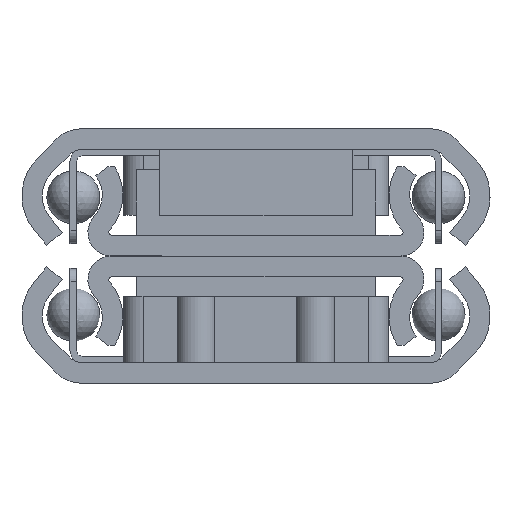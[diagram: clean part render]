
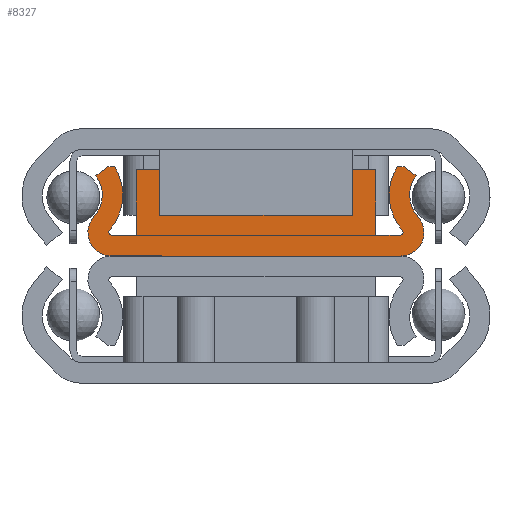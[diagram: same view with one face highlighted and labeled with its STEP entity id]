
A CAD part, left-side view. The second image highlights one B-rep face of the part: STEP entity #8327.
In plain terms, the highlighted planar face has unit normal (-1, 0, 0) as drawn and (0, 0, 1) by its records, which use the part's own axes.
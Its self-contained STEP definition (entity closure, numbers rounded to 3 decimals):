
#366=PLANE('',#9060);
#893=LINE('',#13346,#1657);
#902=LINE('',#13365,#1666);
#904=LINE('',#13369,#1668);
#906=LINE('',#13373,#1670);
#908=LINE('',#13377,#1672);
#910=LINE('',#13381,#1674);
#912=LINE('',#13384,#1676);
#913=LINE('',#13388,#1677);
#928=LINE('',#13444,#1692);
#931=LINE('',#13450,#1695);
#935=LINE('',#13466,#1699);
#938=LINE('',#13470,#1702);
#942=LINE('',#13487,#1706);
#945=LINE('',#13493,#1709);
#1657=VECTOR('',#10839,4.948);
#1666=VECTOR('',#10852,4.948);
#1668=VECTOR('',#10856,4.25);
#1670=VECTOR('',#10860,2.136);
#1672=VECTOR('',#10864,8.);
#1674=VECTOR('',#10868,2.136);
#1676=VECTOR('',#10872,4.25);
#1677=VECTOR('',#10875,21.757);
#1692=VECTOR('',#10932,1.129);
#1695=VECTOR('',#10937,0.515);
#1699=VECTOR('',#10955,1.869);
#1702=VECTOR('',#10958,1.869);
#1706=VECTOR('',#10976,0.515);
#1709=VECTOR('',#10981,1.129);
#2402=FACE_OUTER_BOUND('',#2986,.T.);
#2986=EDGE_LOOP('',(#7050,#7051,#7052,#7053,#7054,#7055,#7056,#7057,#7058,
#7059,#7060,#7061,#7062,#7063,#7064,#7065,#7066,#7067,#7068,#7069,#7070,
#7071));
#3459=CIRCLE('',#9033,1.772);
#3461=CIRCLE('',#9036,2.424);
#3463=CIRCLE('',#9041,3.976);
#3465=CIRCLE('',#9044,0.224);
#3467=CIRCLE('',#9048,0.224);
#3469=CIRCLE('',#9051,3.976);
#3471=CIRCLE('',#9056,2.424);
#3473=CIRCLE('',#9059,1.772);
#4089=VERTEX_POINT('',#13340);
#4091=VERTEX_POINT('',#13344);
#4098=VERTEX_POINT('',#13362);
#4099=VERTEX_POINT('',#13364);
#4100=VERTEX_POINT('',#13368);
#4101=VERTEX_POINT('',#13372);
#4102=VERTEX_POINT('',#13376);
#4103=VERTEX_POINT('',#13380);
#4104=VERTEX_POINT('',#13386);
#4105=VERTEX_POINT('',#13387);
#4121=VERTEX_POINT('',#13431);
#4123=VERTEX_POINT('',#13437);
#4125=VERTEX_POINT('',#13443);
#4127=VERTEX_POINT('',#13449);
#4129=VERTEX_POINT('',#13455);
#4131=VERTEX_POINT('',#13461);
#4132=VERTEX_POINT('',#13465);
#4135=VERTEX_POINT('',#13474);
#4137=VERTEX_POINT('',#13480);
#4139=VERTEX_POINT('',#13486);
#4141=VERTEX_POINT('',#13492);
#4143=VERTEX_POINT('',#13498);
#5105=EDGE_CURVE('',#4089,#4091,#893,.T.);
#5114=EDGE_CURVE('',#4099,#4098,#902,.T.);
#5116=EDGE_CURVE('',#4091,#4100,#904,.T.);
#5118=EDGE_CURVE('',#4100,#4101,#906,.T.);
#5120=EDGE_CURVE('',#4101,#4102,#908,.T.);
#5122=EDGE_CURVE('',#4102,#4103,#910,.T.);
#5124=EDGE_CURVE('',#4103,#4099,#912,.T.);
#5125=EDGE_CURVE('',#4104,#4105,#913,.T.);
#5146=EDGE_CURVE('',#4121,#4104,#3459,.T.);
#5149=EDGE_CURVE('',#4123,#4121,#3461,.T.);
#5152=EDGE_CURVE('',#4125,#4123,#928,.T.);
#5155=EDGE_CURVE('',#4127,#4125,#931,.T.);
#5158=EDGE_CURVE('',#4129,#4127,#3463,.T.);
#5161=EDGE_CURVE('',#4131,#4129,#3465,.T.);
#5163=EDGE_CURVE('',#4132,#4089,#935,.T.);
#5166=EDGE_CURVE('',#4098,#4131,#938,.T.);
#5168=EDGE_CURVE('',#4135,#4132,#3467,.T.);
#5171=EDGE_CURVE('',#4137,#4135,#3469,.T.);
#5174=EDGE_CURVE('',#4139,#4137,#942,.T.);
#5177=EDGE_CURVE('',#4141,#4139,#945,.T.);
#5180=EDGE_CURVE('',#4143,#4141,#3471,.T.);
#5183=EDGE_CURVE('',#4105,#4143,#3473,.T.);
#7050=ORIENTED_EDGE('',*,*,#5125,.T.);
#7051=ORIENTED_EDGE('',*,*,#5183,.T.);
#7052=ORIENTED_EDGE('',*,*,#5180,.T.);
#7053=ORIENTED_EDGE('',*,*,#5177,.T.);
#7054=ORIENTED_EDGE('',*,*,#5174,.T.);
#7055=ORIENTED_EDGE('',*,*,#5171,.T.);
#7056=ORIENTED_EDGE('',*,*,#5168,.T.);
#7057=ORIENTED_EDGE('',*,*,#5163,.T.);
#7058=ORIENTED_EDGE('',*,*,#5105,.T.);
#7059=ORIENTED_EDGE('',*,*,#5116,.T.);
#7060=ORIENTED_EDGE('',*,*,#5118,.T.);
#7061=ORIENTED_EDGE('',*,*,#5120,.T.);
#7062=ORIENTED_EDGE('',*,*,#5122,.T.);
#7063=ORIENTED_EDGE('',*,*,#5124,.T.);
#7064=ORIENTED_EDGE('',*,*,#5114,.T.);
#7065=ORIENTED_EDGE('',*,*,#5166,.T.);
#7066=ORIENTED_EDGE('',*,*,#5161,.T.);
#7067=ORIENTED_EDGE('',*,*,#5158,.T.);
#7068=ORIENTED_EDGE('',*,*,#5155,.T.);
#7069=ORIENTED_EDGE('',*,*,#5152,.T.);
#7070=ORIENTED_EDGE('',*,*,#5149,.T.);
#7071=ORIENTED_EDGE('',*,*,#5146,.T.);
#8327=ADVANCED_FACE('',(#2402),#366,.T.);
#9033=AXIS2_PLACEMENT_3D('',#13432,#10919,#10920);
#9036=AXIS2_PLACEMENT_3D('',#13438,#10926,#10927);
#9041=AXIS2_PLACEMENT_3D('',#13456,#10943,#10944);
#9044=AXIS2_PLACEMENT_3D('',#13462,#10950,#10951);
#9048=AXIS2_PLACEMENT_3D('',#13475,#10963,#10964);
#9051=AXIS2_PLACEMENT_3D('',#13481,#10970,#10971);
#9056=AXIS2_PLACEMENT_3D('',#13499,#10987,#10988);
#9059=AXIS2_PLACEMENT_3D('',#13503,#10994,#10995);
#9060=AXIS2_PLACEMENT_3D('',#13504,#10996,#10997);
#10839=DIRECTION('',(-1.,0.,0.));
#10852=DIRECTION('',(1.,0.,0.));
#10856=DIRECTION('',(0.,-1.,0.));
#10860=DIRECTION('',(0.936,-0.351,0.));
#10864=DIRECTION('',(0.,-1.,0.));
#10868=DIRECTION('',(-0.936,-0.351,0.));
#10872=DIRECTION('',(0.,-1.,0.));
#10875=DIRECTION('',(0.,1.,0.));
#10919=DIRECTION('center_axis',(0.,0.,1.));
#10920=DIRECTION('ref_axis',(-0.67,-0.743,0.));
#10926=DIRECTION('center_axis',(0.,0.,-1.));
#10927=DIRECTION('ref_axis',(-0.67,-0.743,0.));
#10932=DIRECTION('',(0.602,-0.799,0.));
#10937=DIRECTION('',(0.,-1.,0.));
#10943=DIRECTION('center_axis',(0.,0.,1.));
#10944=DIRECTION('ref_axis',(0.668,0.744,0.));
#10950=DIRECTION('center_axis',(0.,0.,-1.));
#10951=DIRECTION('ref_axis',(0.668,0.744,0.));
#10955=DIRECTION('',(0.,-1.,0.));
#10958=DIRECTION('',(0.,-1.,0.));
#10963=DIRECTION('center_axis',(0.,0.,-1.));
#10964=DIRECTION('ref_axis',(-1.,0.,0.));
#10970=DIRECTION('center_axis',(0.,0.,1.));
#10971=DIRECTION('ref_axis',(-0.538,-0.843,0.));
#10976=DIRECTION('',(0.,-1.,0.));
#10981=DIRECTION('',(-0.602,-0.799,0.));
#10987=DIRECTION('center_axis',(0.,0.,-1.));
#10988=DIRECTION('ref_axis',(0.602,0.799,0.));
#10994=DIRECTION('center_axis',(0.,0.,1.));
#10995=DIRECTION('ref_axis',(1.,0.,0.));
#10996=DIRECTION('center_axis',(0.,0.,1.));
#10997=DIRECTION('ref_axis',(1.,0.,0.));
#13340=CARTESIAN_POINT('',(-1.552,9.,480.));
#13344=CARTESIAN_POINT('',(-6.5,9.,480.));
#13346=CARTESIAN_POINT('',(0.,9.,480.));
#13362=CARTESIAN_POINT('',(-1.552,-9.,480.));
#13364=CARTESIAN_POINT('',(-6.5,-9.,480.));
#13365=CARTESIAN_POINT('',(-6.5,-9.,480.));
#13368=CARTESIAN_POINT('',(-6.5,4.75,480.));
#13369=CARTESIAN_POINT('',(-6.5,9.,480.));
#13372=CARTESIAN_POINT('',(-4.5,4.,480.));
#13373=CARTESIAN_POINT('',(-6.5,4.75,480.));
#13376=CARTESIAN_POINT('',(-4.5,-4.,480.));
#13377=CARTESIAN_POINT('',(-4.5,4.,480.));
#13380=CARTESIAN_POINT('',(-6.5,-4.75,480.));
#13381=CARTESIAN_POINT('',(-4.5,-4.,480.));
#13384=CARTESIAN_POINT('',(-6.5,-4.75,480.));
#13386=CARTESIAN_POINT('',(0.,-10.878,480.));
#13387=CARTESIAN_POINT('',(0.,10.878,480.));
#13388=CARTESIAN_POINT('',(0.,-10.878,480.));
#13431=CARTESIAN_POINT('',(-2.958,-12.194,480.));
#13432=CARTESIAN_POINT('Origin',(-1.772,-10.878,480.));
#13437=CARTESIAN_POINT('',(-6.04,-12.058,480.));
#13438=CARTESIAN_POINT('Origin',(-4.582,-13.994,480.));
#13443=CARTESIAN_POINT('',(-6.72,-11.157,480.));
#13444=CARTESIAN_POINT('',(-6.72,-11.157,480.));
#13449=CARTESIAN_POINT('',(-6.72,-10.642,480.));
#13450=CARTESIAN_POINT('',(-6.72,-10.642,480.));
#13455=CARTESIAN_POINT('',(-1.925,-11.036,480.));
#13456=CARTESIAN_POINT('Origin',(-4.582,-13.994,480.));
#13461=CARTESIAN_POINT('',(-1.552,-10.869,480.));
#13462=CARTESIAN_POINT('Origin',(-1.776,-10.869,480.));
#13465=CARTESIAN_POINT('',(-1.552,10.869,480.));
#13466=CARTESIAN_POINT('',(-1.552,10.869,480.));
#13470=CARTESIAN_POINT('',(-1.552,10.869,480.));
#13474=CARTESIAN_POINT('',(-1.925,11.036,480.));
#13475=CARTESIAN_POINT('Origin',(-1.776,10.869,480.));
#13480=CARTESIAN_POINT('',(-6.72,10.642,480.));
#13481=CARTESIAN_POINT('Origin',(-4.582,13.994,480.));
#13486=CARTESIAN_POINT('',(-6.72,11.157,480.));
#13487=CARTESIAN_POINT('',(-6.72,11.157,480.));
#13492=CARTESIAN_POINT('',(-6.04,12.058,480.));
#13493=CARTESIAN_POINT('',(-6.04,12.058,480.));
#13498=CARTESIAN_POINT('',(-2.958,12.194,480.));
#13499=CARTESIAN_POINT('Origin',(-4.582,13.994,480.));
#13503=CARTESIAN_POINT('Origin',(-1.772,10.878,480.));
#13504=CARTESIAN_POINT('Origin',(-1.796,0.,
480.));
